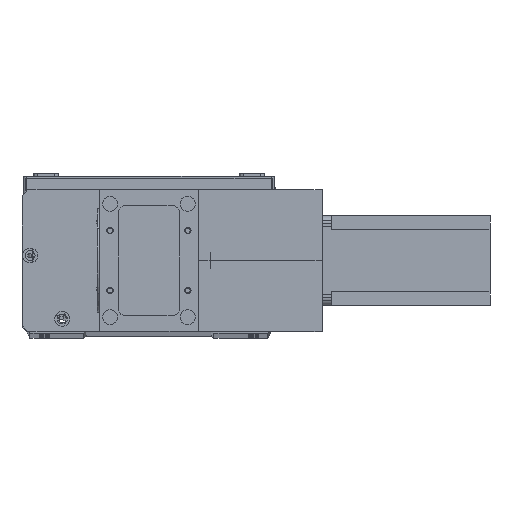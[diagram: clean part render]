
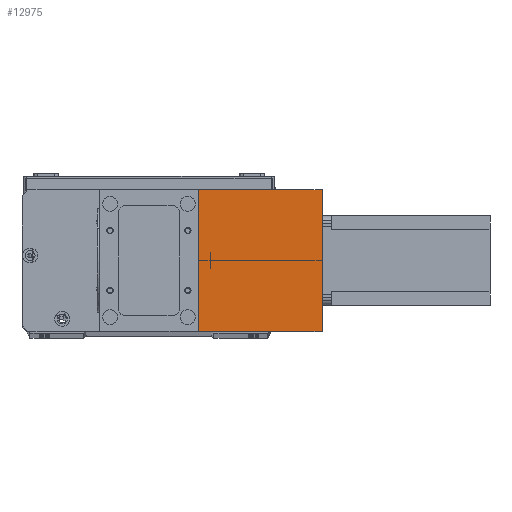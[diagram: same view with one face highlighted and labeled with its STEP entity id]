
A CAD part, top view. The second image highlights one B-rep face of the part: STEP entity #12975.
In plain terms, the highlighted planar face has unit normal (0, 0, 1) as drawn and (1, 0, 0) by its records, which use the part's own axes.
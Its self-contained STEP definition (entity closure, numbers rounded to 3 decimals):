
#1754 = AXIS2_PLACEMENT_3D ( 'NONE', #23889, #23421, #23415 ) ;
#2031 = LINE ( 'NONE', #2194, #26657 ) ;
#2161 = FACE_OUTER_BOUND ( 'NONE', #14977, .T. ) ;
#2194 = CARTESIAN_POINT ( 'NONE',  ( 82., 0., 83. ) ) ;
#2655 = CARTESIAN_POINT ( 'NONE',  ( 82., 0., 83. ) ) ;
#3688 = EDGE_CURVE ( 'NONE', #27225, #10676, #18235, .T. ) ;
#4379 = VECTOR ( 'NONE', #18215, 1000. ) ;
#5305 = CARTESIAN_POINT ( 'NONE',  ( 82., 95., 0. ) ) ;
#7054 = EDGE_CURVE ( 'NONE', #10676, #20465, #23721, .T. ) ;
#10676 = VERTEX_POINT ( 'NONE', #28802 ) ;
#10707 = LINE ( 'NONE', #18124, #4379 ) ;
#11233 = DIRECTION ( 'NONE',  ( 0., 1., 0. ) ) ;
#11497 = VECTOR ( 'NONE', #11233, 1000. ) ;
#11823 = ORIENTED_EDGE ( 'NONE', *, *, #19710, .F. ) ;
#12487 = CARTESIAN_POINT ( 'NONE',  ( 82., 0., 83. ) ) ;
#12562 = DIRECTION ( 'NONE',  ( 0., 0., -1. ) ) ;
#12958 = VERTEX_POINT ( 'NONE', #23893 ) ;
#12975 = ADVANCED_FACE ( 'NONE', ( #2161 ), #23510, .F. ) ;
#14676 = ORIENTED_EDGE ( 'NONE', *, *, #28082, .F. ) ;
#14977 = EDGE_LOOP ( 'NONE', ( #21571, #14676, #11823, #19525 ) ) ;
#15842 = CARTESIAN_POINT ( 'NONE',  ( 82., 0., 0. ) ) ;
#16182 = DIRECTION ( 'NONE',  ( 0., 1., 0. ) ) ;
#18124 = CARTESIAN_POINT ( 'NONE',  ( 82., 95., 83. ) ) ;
#18215 = DIRECTION ( 'NONE',  ( 0., 0., -1. ) ) ;
#18235 = LINE ( 'NONE', #12487, #24287 ) ;
#19525 = ORIENTED_EDGE ( 'NONE', *, *, #3688, .T. ) ;
#19710 = EDGE_CURVE ( 'NONE', #27225, #12958, #2031, .T. ) ;
#20465 = VERTEX_POINT ( 'NONE', #5305 ) ;
#21571 = ORIENTED_EDGE ( 'NONE', *, *, #7054, .T. ) ;
#23415 = DIRECTION ( 'NONE',  ( 0., 0., 1. ) ) ;
#23421 = DIRECTION ( 'NONE',  ( -1., 0., 0. ) ) ;
#23510 = PLANE ( 'NONE',  #1754 ) ;
#23721 = LINE ( 'NONE', #15842, #11497 ) ;
#23889 = CARTESIAN_POINT ( 'NONE',  ( 82., 0., 83. ) ) ;
#23893 = CARTESIAN_POINT ( 'NONE',  ( 82., 95., 83. ) ) ;
#24287 = VECTOR ( 'NONE', #12562, 1000. ) ;
#26657 = VECTOR ( 'NONE', #16182, 1000. ) ;
#27225 = VERTEX_POINT ( 'NONE', #2655 ) ;
#28082 = EDGE_CURVE ( 'NONE', #12958, #20465, #10707, .T. ) ;
#28802 = CARTESIAN_POINT ( 'NONE',  ( 82., 0., 0. ) ) ;
